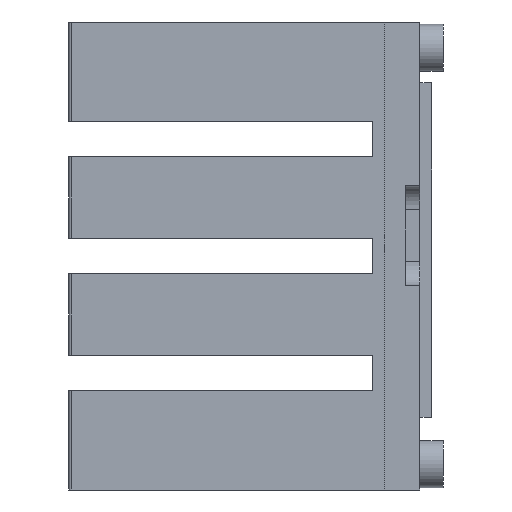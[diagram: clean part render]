
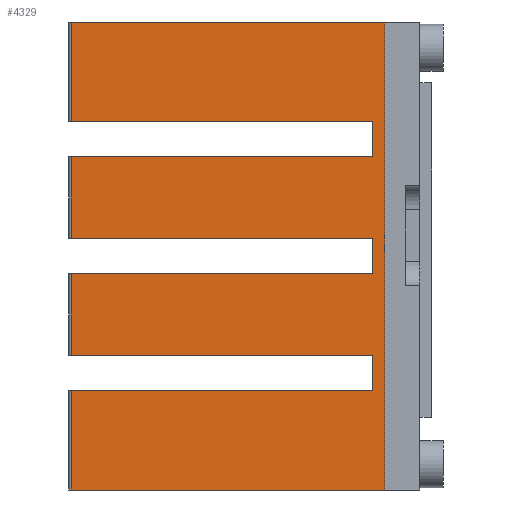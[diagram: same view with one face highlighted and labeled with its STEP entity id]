
A CAD part, left-side view. The second image highlights one B-rep face of the part: STEP entity #4329.
In plain terms, the highlighted planar face has unit normal (-1, 0.007, 0).
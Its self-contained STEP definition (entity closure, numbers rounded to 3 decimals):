
#20=DIRECTION('',(-0.007,-1.,0.));
#21=VECTOR('',#20,26.802);
#22=CARTESIAN_POINT('',(-14.801,29.801,-20.));
#23=LINE('',#22,#21);
#221=DIRECTION('',(0.,0.,-1.));
#222=VECTOR('',#221,8.5);
#223=CARTESIAN_POINT('',(-14.801,29.801,-11.5));
#224=LINE('',#223,#222);
#238=DIRECTION('',(0.007,1.,0.));
#239=VECTOR('',#238,25.802);
#240=CARTESIAN_POINT('',(-14.993,4.,-11.5));
#241=LINE('',#240,#239);
#312=DIRECTION('',(0.007,1.,0.));
#313=VECTOR('',#312,25.802);
#314=CARTESIAN_POINT('',(-14.993,4.,8.5));
#315=LINE('',#314,#313);
#329=DIRECTION('',(0.,0.,-1.));
#330=VECTOR('',#329,7.);
#331=CARTESIAN_POINT('',(-14.801,29.801,8.5));
#332=LINE('',#331,#330);
#337=DIRECTION('',(0.,0.,-1.));
#338=VECTOR('',#337,3.);
#339=CARTESIAN_POINT('',(-14.993,4.,11.5));
#340=LINE('',#339,#338);
#341=DIRECTION('',(0.,0.,1.));
#342=VECTOR('',#341,40.);
#343=CARTESIAN_POINT('',(-15.,3.,-20.));
#344=LINE('',#343,#342);
#345=DIRECTION('',(0.,0.,-1.));
#346=VECTOR('',#345,3.);
#347=CARTESIAN_POINT('',(-14.993,4.,-8.5));
#348=LINE('',#347,#346);
#349=DIRECTION('',(0.,0.,-1.));
#350=VECTOR('',#349,3.);
#351=CARTESIAN_POINT('',(-14.993,4.,1.5));
#352=LINE('',#351,#350);
#362=DIRECTION('',(-0.007,-1.,0.));
#363=VECTOR('',#362,25.802);
#364=CARTESIAN_POINT('',(-14.801,29.801,11.5));
#365=LINE('',#364,#363);
#637=DIRECTION('',(-0.007,-1.,0.));
#638=VECTOR('',#637,26.802);
#639=CARTESIAN_POINT('',(-14.801,29.801,20.));
#640=LINE('',#639,#638);
#645=DIRECTION('',(0.,0.,-1.));
#646=VECTOR('',#645,8.5);
#647=CARTESIAN_POINT('',(-14.801,29.801,20.));
#648=LINE('',#647,#646);
#2938=DIRECTION('',(-0.007,-1.,0.));
#2939=VECTOR('',#2938,25.802);
#2940=CARTESIAN_POINT('',(-14.801,29.801,-8.5));
#2941=LINE('',#2940,#2939);
#2964=DIRECTION('',(0.007,1.,0.));
#2965=VECTOR('',#2964,25.802);
#2966=CARTESIAN_POINT('',(-14.993,4.,-1.5));
#2967=LINE('',#2966,#2965);
#2990=DIRECTION('',(-0.007,-1.,0.));
#2991=VECTOR('',#2990,25.802);
#2992=CARTESIAN_POINT('',(-14.801,29.801,1.5));
#2993=LINE('',#2992,#2991);
#3007=DIRECTION('',(0.,0.,-1.));
#3008=VECTOR('',#3007,7.);
#3009=CARTESIAN_POINT('',(-14.801,29.801,-1.5));
#3010=LINE('',#3009,#3008);
#3016=CARTESIAN_POINT('',(-14.801,29.801,-20.));
#3018=VERTEX_POINT('',#3016);
#3141=CARTESIAN_POINT('',(-15.,3.,-20.));
#3142=VERTEX_POINT('',#3141);
#3143=CARTESIAN_POINT('',(-14.801,29.801,8.5));
#3145=VERTEX_POINT('',#3143);
#3147=CARTESIAN_POINT('',(-14.801,29.801,1.5));
#3148=VERTEX_POINT('',#3147);
#3152=CARTESIAN_POINT('',(-14.801,29.801,11.5));
#3154=VERTEX_POINT('',#3152);
#3157=CARTESIAN_POINT('',(-14.801,29.801,20.));
#3158=VERTEX_POINT('',#3157);
#3159=CARTESIAN_POINT('',(-14.801,29.801,-1.5));
#3161=VERTEX_POINT('',#3159);
#3163=CARTESIAN_POINT('',(-14.801,29.801,-8.5));
#3164=VERTEX_POINT('',#3163);
#3167=CARTESIAN_POINT('',(-14.801,29.801,-11.5));
#3169=VERTEX_POINT('',#3167);
#3257=CARTESIAN_POINT('',(-14.993,4.,8.5));
#3258=VERTEX_POINT('',#3257);
#3359=CARTESIAN_POINT('',(-14.993,4.,11.5));
#3360=VERTEX_POINT('',#3359);
#3517=CARTESIAN_POINT('',(-14.993,4.,1.5));
#3518=VERTEX_POINT('',#3517);
#3541=CARTESIAN_POINT('',(-14.993,4.,-1.5));
#3542=VERTEX_POINT('',#3541);
#3677=CARTESIAN_POINT('',(-14.993,4.,-8.5));
#3678=VERTEX_POINT('',#3677);
#3699=CARTESIAN_POINT('',(-14.993,4.,-11.5));
#3700=VERTEX_POINT('',#3699);
#3845=CARTESIAN_POINT('',(-15.,3.,20.));
#3846=VERTEX_POINT('',#3845);
#4295=CARTESIAN_POINT('',(-14.901,16.401,0.));
#4296=DIRECTION('',(1.,-0.007,0.));
#4297=DIRECTION('',(-0.007,-1.,0.));
#4298=AXIS2_PLACEMENT_3D('',#4295,#4296,#4297);
#4299=PLANE('',#4298);
#4300=ORIENTED_EDGE('',*,*,#4238,.F.);
#4302=ORIENTED_EDGE('',*,*,#4301,.F.);
#4304=ORIENTED_EDGE('',*,*,#4303,.F.);
#4306=ORIENTED_EDGE('',*,*,#4305,.F.);
#4308=ORIENTED_EDGE('',*,*,#4307,.T.);
#4310=ORIENTED_EDGE('',*,*,#4309,.F.);
#4311=ORIENTED_EDGE('',*,*,#3958,.F.);
#4312=ORIENTED_EDGE('',*,*,#4101,.F.);
#4313=ORIENTED_EDGE('',*,*,#4129,.F.);
#4315=ORIENTED_EDGE('',*,*,#4314,.F.);
#4317=ORIENTED_EDGE('',*,*,#4316,.F.);
#4319=ORIENTED_EDGE('',*,*,#4318,.F.);
#4321=ORIENTED_EDGE('',*,*,#4320,.F.);
#4323=ORIENTED_EDGE('',*,*,#4322,.F.);
#4325=ORIENTED_EDGE('',*,*,#4324,.F.);
#4326=ORIENTED_EDGE('',*,*,#4280,.F.);
#4327=EDGE_LOOP('',(#4300,#4302,#4304,#4306,#4308,#4310,#4311,#4312,#4313,#4315,
#4317,#4319,#4321,#4323,#4325,#4326));
#4328=FACE_OUTER_BOUND('',#4327,.F.);
#3958=EDGE_CURVE('',#3018,#3142,#23,.T.);
#4101=EDGE_CURVE('',#3169,#3018,#224,.T.);
#4129=EDGE_CURVE('',#3700,#3169,#241,.T.);
#4238=EDGE_CURVE('',#3258,#3145,#315,.T.);
#4280=EDGE_CURVE('',#3145,#3148,#332,.T.);
#4301=EDGE_CURVE('',#3360,#3258,#340,.T.);
#4303=EDGE_CURVE('',#3154,#3360,#365,.T.);
#4305=EDGE_CURVE('',#3158,#3154,#648,.T.);
#4307=EDGE_CURVE('',#3158,#3846,#640,.T.);
#4309=EDGE_CURVE('',#3142,#3846,#344,.T.);
#4314=EDGE_CURVE('',#3678,#3700,#348,.T.);
#4316=EDGE_CURVE('',#3164,#3678,#2941,.T.);
#4318=EDGE_CURVE('',#3161,#3164,#3010,.T.);
#4320=EDGE_CURVE('',#3542,#3161,#2967,.T.);
#4322=EDGE_CURVE('',#3518,#3542,#352,.T.);
#4324=EDGE_CURVE('',#3148,#3518,#2993,.T.);
#4329=ADVANCED_FACE('',(#4328),#4299,.F.);
